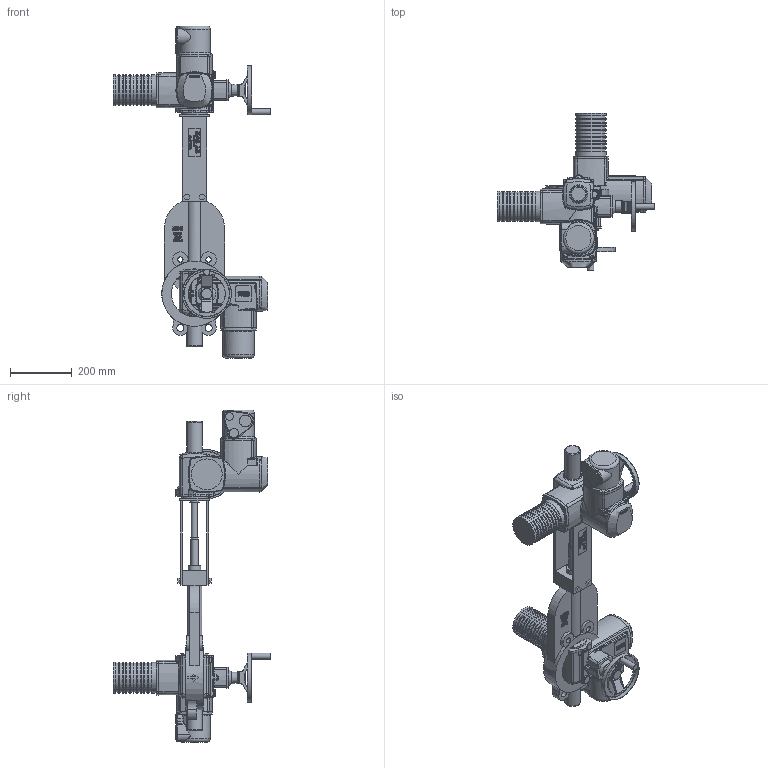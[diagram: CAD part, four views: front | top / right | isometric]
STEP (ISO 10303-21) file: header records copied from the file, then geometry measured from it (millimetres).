
FILE_DESCRIPTION( ( 'Unknown' ), '1' );
FILE_NAME( 'J:/Muud/ROOTSI BPS 3D vidinad/Nugasiibrid/Knife gate valve with electric actuator BPS/STEP formaat/BPS 2010150E knife gate valve DN150.stp', 'Unknown', ( 'Unknown' ), ( 'Unknown' ), 'PSStep 10.1', 'Unknown', ' ' );
FILE_SCHEMA( ( 'AUTOMOTIVE_DESIGN { 1 0 10303 214 1 1 1 1 }' ) );
Length unit declared in the file: millimetre
Products named in the file (3): Assem1; Knife gate valve for electric drive DN150 BPS; AUMA electric actuator sa07.1(sa07.5)
Bounding box: 511.9 x 511.9 x 1079 mm (x, y, z)
Volume: 21936519.7 mm3; surface area: 1564065.7 mm2
Topology: 4 solids, 4 shells, 2802 faces, 6728 edges, 4206 vertices
Faces by surface type: extrusion 1058, plane 584, cylinder 536, bspline 330, cone 154, torus 94, sphere 46
Full cylindrical faces by diameter (mm): 4.917 x8, 6.647 x8, 17.294 x4, 20 x6, 23 x4, 24 x4, 25 x4, 25.5 x2, 30 x8, 34 x2, 38.3 x2, 40 x2, 51.5 x2, 55 x2, 90 x2, 95 x20, 100 x22, 120 x2, 150 x4, 160 x2, 212 x2
Entity records: 71955 total; most frequent: CARTESIAN_POINT 31179, ORIENTED_EDGE 6400, DIRECTION 4744, EDGE_CURVE 3200, VERTEX_POINT 2076, VECTOR 1924, EDGE_LOOP 1680, B_SPLINE_CURVE_WITH_KNOTS 1634
